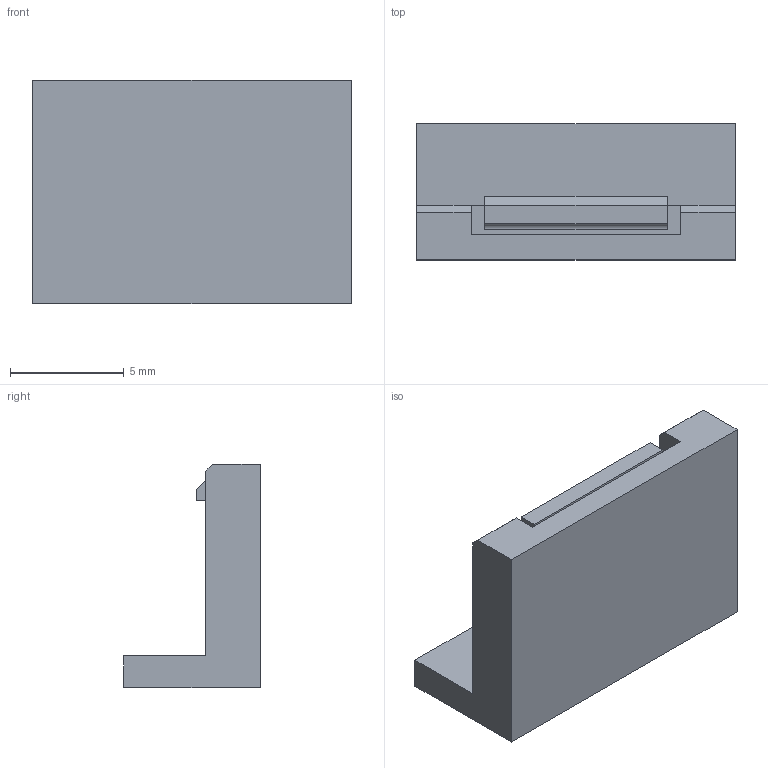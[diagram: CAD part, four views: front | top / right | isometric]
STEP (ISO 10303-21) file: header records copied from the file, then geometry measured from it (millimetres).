
FILE_DESCRIPTION(('FreeCAD Model'),'2;1');
FILE_NAME('Open CASCADE Shape Model','2026-10-03T15:52:23',('Author'),( ''),'Open CASCADE STEP processor 7.8','FreeCAD','Unknown');
FILE_SCHEMA(('AUTOMOTIVE_DESIGN { 1 0 10303 214 1 1 1 1 }'));
Length unit declared in the file: millimetre
Products named in the file (1): OPTIONAL_HiddenLock_Joint_Lid_Test
Bounding box: 14 x 6 x 9.8 mm (x, y, z)
Volume: 354.9 mm3; surface area: 657.3 mm2
Topology: 1 solids, 1 shells, 23 faces, 63 edges, 42 vertices
Faces by surface type: bspline 23
Entity records: 665 total; most frequent: CARTESIAN_POINT 265, ORIENTED_EDGE 126, EDGE_CURVE 63, B_SPLINE_CURVE_WITH_KNOTS 61, VERTEX_POINT 42, ADVANCED_FACE 23, FACE_BOUND 23, EDGE_LOOP 23
